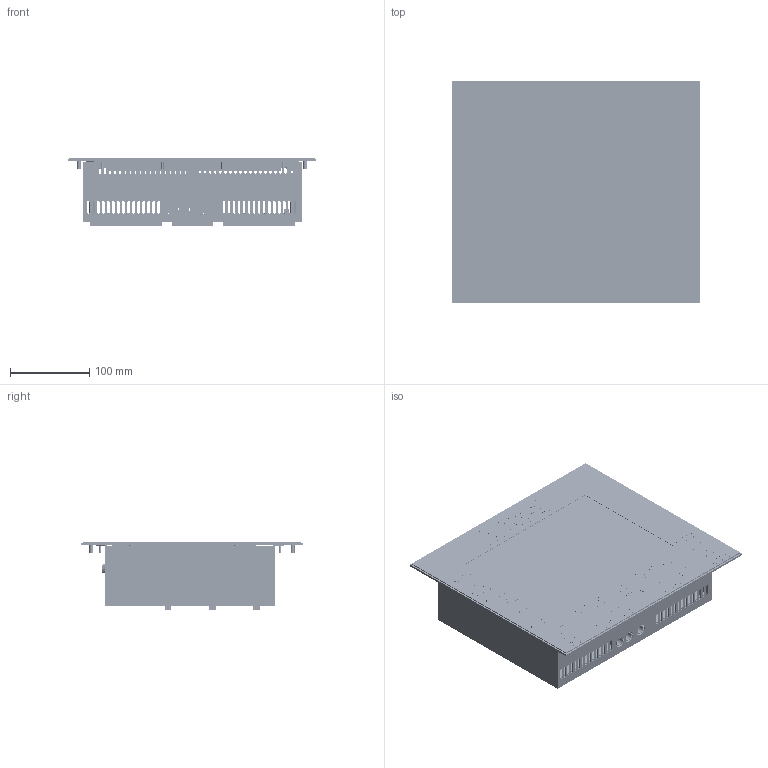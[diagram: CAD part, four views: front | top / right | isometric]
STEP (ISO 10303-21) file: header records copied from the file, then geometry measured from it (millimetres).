
FILE_DESCRIPTION(/* description */ (''),/* implementation_level */ '2;1');
FILE_NAME(/* name */ 'XL200_V4 v1.step',/* time_stamp */ '2024-08-26T13:41:07-05:00',/* author */ (''),/* organization */ (''),/* preprocessor_version */ 'ST-DEVELOPER v20',/* originating_system */ 'Autodesk Translation Framework v13.14.0.145',/* authorisation */ '');
FILE_SCHEMA (('AUTOMOTIVE_DESIGN { 1 0 10303 214 3 1 1 }'));
Products named in the file (83): XL200_V4; 7985-1; 7985-L; 7985; K3262_L; 7986_Overlay; 7986_template; Key-function_template; Key-function_template (1); Key-function_template (2); Key-function_template (3); Key-function_template (4); Key-function_template (5); Key-function_template (6); Key-function_template (7); Key-function_template (8); Key-function_template (9); Key-function_template (10); Key-function_template (11); Key-function_template (12); Key-function_template (13); Square-function_template; Square-function_template (1); Square-function_template (2); Square-function_template (3); Square-function_template (4); Square-function_template (5); Square-function_template (6); Square-function_template (7); Square-function_template (8); Square-function_template (9); Square-function_template (10); Square-function_template (11); Square-function_template (12); Square-function_template (13); Square-function_template (14); Square-function_template (15); Square-function_template (16); Square-function_template (17); Square-function_template (18)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
Assembly tree (153 placements, depth 4):
  XL200_V4
    7985-1
      7985-L
        7985
        K3262_L
      7986_Overlay
        7986_template
        Key-function_template
        Key-function_template (1)
        Key-function_template (2)
        Key-function_template (3)
        Key-function_template (4)
        Key-function_template (5)
        Key-function_template (6)
        Key-function_template (7)
        Key-function_template (8)
        Key-function_template (9)
        Key-function_template (10)
        Key-function_template (11)
        Key-function_template (12)
        Key-function_template (13)
        Square-function_template
        Square-function_template (1)
        Square-function_template (2)
        Square-function_template (3)
        Square-function_template (4)
        Square-function_template (5)
        Square-function_template (6)
        Square-function_template (7)
        Square-function_template (8)
        Square-function_template (9)
        Square-function_template (10)
        Square-function_template (11)
        Square-function_template (12)
        Square-function_template (13)
        Square-function_template (14)
        Square-function_template (15)
        Square-function_template (16)
        Square-function_template (17)
        Square-function_template (18)
        Square-function_template (19)
        Square-function_template (20)
        Square-function_template (21)
        Square-function_template (22)
        Square-function_template (23)
        FID-554_10.4
        AMSLOGO_new
      Optrex_Dispay_10.4
      K3262
      4-40_3x8_phs  x2
      #293644  x8
      #293643  x6
      10414  x2
      #293642  x4
    7988_Assy
      7988
      5386D-1
        5386D
        HFBR-0600 SMA Fiber Optics  x2
        PS_2_Molex_87123_series  x2
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Bounding box: 313.69 x 279.4 x 85.7 mm (x, y, z)
Volume: 1016989.2 mm3; surface area: 1147048.9 mm2
Topology: 189 solids, 189 shells, 11129 faces, 28463 edges, 18615 vertices
Faces by surface type: plane 7057, cylinder 2443, bspline 1139, cone 458, torus 32
Full cylindrical faces by diameter (mm): 0.45 x12, 0.5 x4, 0.61 x144, 0.762 x10, 0.864 x24, 0.889 x58, 0.9 x12, 1 x4, 1.016 x108, 1.041 x12, 1.05 x9, 1.092 x24, 1.2 x24, 1.27 x1, 1.3 x224, 1.397 x9, 1.524 x2, 1.575 x2, 1.778 x2, 1.93 x4, 2.261 x4, 2.286 x6, 2.438 x2, 2.474 x128, 2.5 x1, 2.54 x98, 2.705 x5, 2.779 x2, 2.8 x4, 2.845 x14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
Entity records: 293854 total; most frequent: CARTESIAN_POINT 91101, ORIENTED_EDGE 42724, DIRECTION 36202, EDGE_CURVE 21362, LINE 16090, VECTOR 16090, VERTEX_POINT 14150, AXIS2_PLACEMENT_3D 10056
